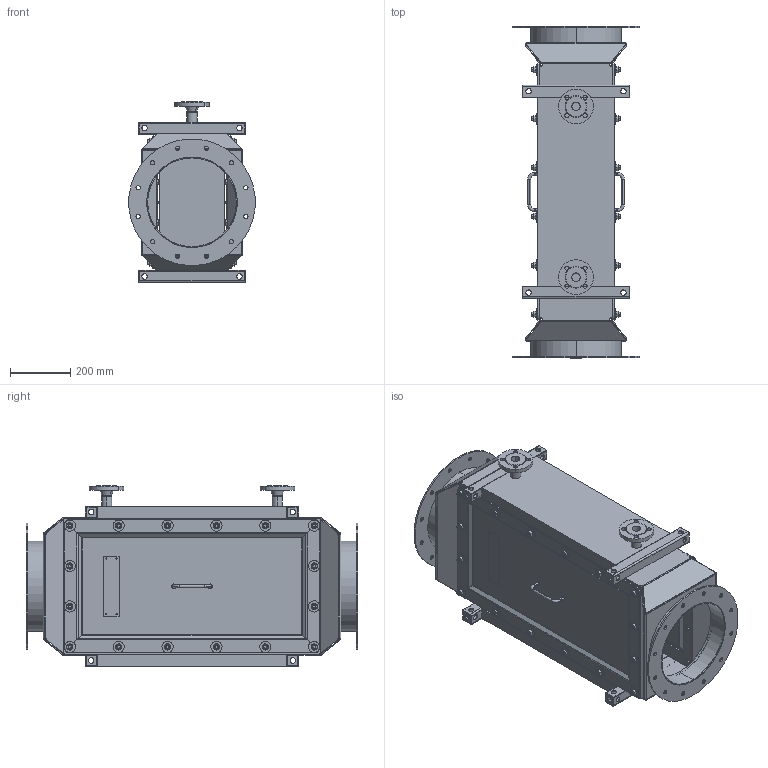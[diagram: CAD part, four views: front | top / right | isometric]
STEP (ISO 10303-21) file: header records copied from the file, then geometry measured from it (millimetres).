
FILE_DESCRIPTION (( 'STEP AP203' ), '1' );
FILE_NAME ('FW-200.STEP', '2024-12-19T10:52:37', ( '' ), ( '' ), 'SwSTEP 2.0', 'SolidWorks 2016', '' );
FILE_SCHEMA (( 'CONFIG_CONTROL_DESIGN' ));
Length unit declared in the file: millimetre
Products named in the file (25): F.351.E03 - Gehäuse Teil 3_F.351.E03A - Geh„use Teil 3A; N.001.DIN2633 - Vorschweißflansch DIN2633 PN16_DIN2633.DN25 - Vorschweiáflansch DIN2633 DN25 (1 Zoll); F.351.E10 - Statik-Kasten Teil 2_F.351.E10B - Statik-Kasten Winkelteil Typ 2B; F.351.E07 - Statik Formrohr Verschlusskappe_F.351.E07 - Statik Formrohr Verschlusskappe; F.350 - Block 01_F.350 - Block 01 - FW-200; N.014.04 - Scheibe; F.351.E09 - Abdeckung_F.351.E09A - Abdeckung Typ A; F.351.Z02 - Gehäuse Teil 1 Gesamt_F.351.Z02A - Geh„use Teil 1A; DIN9021 - Unterlegscheibe Groß_DIN9021.M12 - Scheibe Groá; FW-200; F.351.E10 - Statik-Kasten Teil 2_F.351.E10A - Statik-Kasten Winkelteil Typ 2A; DIN933 - Sechskantschraube mit Gewinde bis unter Kopf_DIN933.M12L30; F.331.01 - FERCHER Abgas Norm-Flansch_F.331.01.DN300 - FERCHER Abgas Norm-Flansch DN300; F.351.Z04 - Abdeckung Gesamt_F.351.Z04A - Abdeckung Typ A Gesamt; N.014.04 - Edelstahl Handgriff_N.014.04A - Edelstahl Handgriff; DIN933 - Sechskantschraube mit Gewinde bis unter Kopf_DIN933.M5L16; DIN934 - Sechskantmutter_DIN934.M12; F.351.D01 - Dichtung Abdeckung_F.351.D01A - Dichtung Abdeckung Typ A; Plakette KLEIN - mit Schrauben_N.012.01 - FERCHER Plakette Klein; N.014.04 - Edelstahl Handgriff verschraubt_N.014.04 - Edelstahl Handgriff verschraubt; F.351.E01 - Gehäuse Teil 1_F.351.E01A - Geh„use Teil 1A; N.012.01 - FERCHER Plakette Klein_N.012.01 - FERCHER Schild Klein; F.351.Z03 - Statik Formrohr Gesamt_F.351.Z03A - Statik Formrohr Typ A; F.351.E06 - Statik-Kasten Winkelteil_F.351.E06A - Statik-Kasten Winkelteil Typ 1A; F.351.E05 - Anschlussrohr Abgas_F.351.E05B - Anschlussrohr Abgas DN300
Assembly tree (82 placements, depth 4):
  FW-200
    F.351.Z02 - Gehäuse Teil 1 Gesamt_F.351.Z02A - Geh„use Teil 1A  x2
      F.351.E01 - Gehäuse Teil 1_F.351.E01A - Geh„use Teil 1A
      DIN933 - Sechskantschraube mit Gewinde bis unter Kopf_DIN933.M12L30
    F.351.Z03 - Statik Formrohr Gesamt_F.351.Z03A - Statik Formrohr Typ A  x4
      F.351.E07 - Statik Formrohr Verschlusskappe_F.351.E07 - Statik Formrohr Verschlusskappe
      F.351.E06 - Statik-Kasten Winkelteil_F.351.E06A - Statik-Kasten Winkelteil Typ 1A
      F.351.E10 - Statik-Kasten Teil 2_F.351.E10A - Statik-Kasten Winkelteil Typ 2A
      F.351.E10 - Statik-Kasten Teil 2_F.351.E10B - Statik-Kasten Winkelteil Typ 2B
    F.351.E03 - Gehäuse Teil 3_F.351.E03A - Geh„use Teil 3A  x2
    F.351.E05 - Anschlussrohr Abgas_F.351.E05B - Anschlussrohr Abgas DN300  x2
    F.331.01 - FERCHER Abgas Norm-Flansch_F.331.01.DN300 - FERCHER Abgas Norm-Flansch DN300  x2
    F.351.D01 - Dichtung Abdeckung_F.351.D01A - Dichtung Abdeckung Typ A  x2
    F.351.Z04 - Abdeckung Gesamt_F.351.Z04A - Abdeckung Typ A Gesamt  x2
      F.351.E09 - Abdeckung_F.351.E09A - Abdeckung Typ A
      Plakette KLEIN - mit Schrauben_N.012.01 - FERCHER Plakette Klein
        N.012.01 - FERCHER Plakette Klein_N.012.01 - FERCHER Schild Klein
      N.014.04 - Edelstahl Handgriff verschraubt_N.014.04 - Edelstahl Handgriff verschraubt
        N.014.04 - Edelstahl Handgriff_N.014.04A - Edelstahl Handgriff
        N.014.04 - Scheibe  x2
        DIN933 - Sechskantschraube mit Gewinde bis unter Kopf_DIN933.M5L16  x2
      DIN934 - Sechskantmutter_DIN934.M12
      DIN9021 - Unterlegscheibe Groß_DIN9021.M12 - Scheibe Groá
    N.001.DIN2633 - Vorschweißflansch DIN2633 PN16_DIN2633.DN25 - Vorschweiáflansch DIN2633 DN25 (1 Zoll)  x2
    F.350 - Block 01_F.350 - Block 01 - FW-200
Bounding box: 418.4 x 1100 x 600 mm (x, y, z)
Volume: 76834385.6 mm3; surface area: 5691604.6 mm2
Topology: 143 solids, 143 shells, 3064 faces, 7492 edges, 4760 vertices
Faces by surface type: cylinder 1524, plane 1392, cone 88, bspline 52, torus 8
Entity records: 22875 total; most frequent: CARTESIAN_POINT 4033, DIRECTION 3166, ORIENTED_EDGE 2920, EDGE_CURVE 1460, AXIS2_PLACEMENT_3D 1201, VERTEX_POINT 918, EDGE_LOOP 774, VECTOR 764
